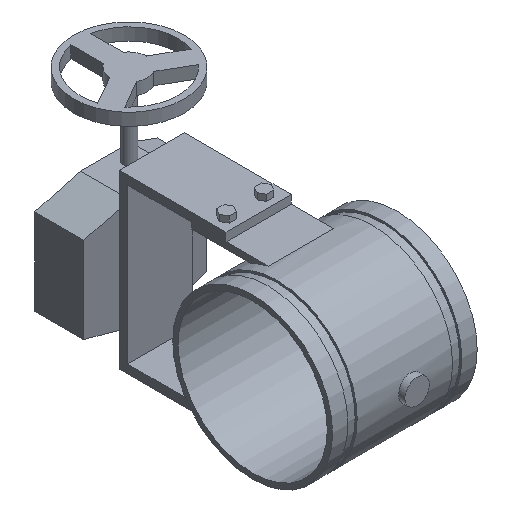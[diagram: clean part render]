
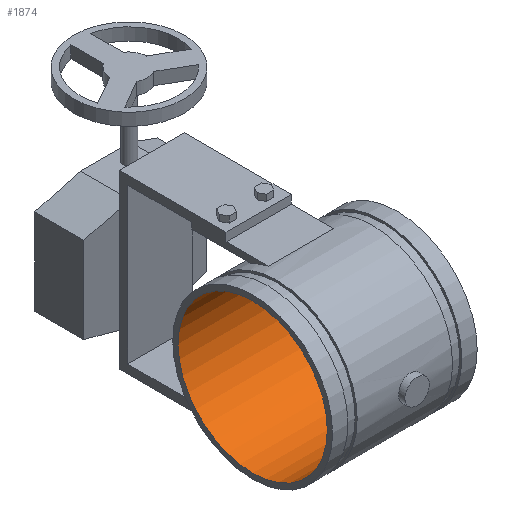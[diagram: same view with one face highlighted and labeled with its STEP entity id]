
A CAD part, isometric view. The second image highlights one B-rep face of the part: STEP entity #1874.
In plain terms, the highlighted cylindrical face has radius 77.025 mm (diameter 154.051 mm), a full revolution.
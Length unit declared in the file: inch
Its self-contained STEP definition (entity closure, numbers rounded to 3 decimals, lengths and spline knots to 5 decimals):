
#75=CYLINDRICAL_SURFACE('',#1999,3.0325);
#98=CIRCLE('',#2000,3.0325);
#99=CIRCLE('',#2001,3.0325);
#100=CIRCLE('',#2002,3.0325);
#101=CIRCLE('',#2003,3.0325);
#149=FACE_OUTER_BOUND('',#247,.T.);
#247=EDGE_LOOP('',(#1247,#1248,#1249,#1250,#1251,#1252));
#378=LINE('',#2815,#579);
#579=VECTOR('',#2214,3.0325);
#785=VERTEX_POINT('',#2811);
#786=VERTEX_POINT('',#2812);
#787=VERTEX_POINT('',#2814);
#788=VERTEX_POINT('',#2816);
#968=EDGE_CURVE('',#785,#786,#98,.T.);
#969=EDGE_CURVE('',#786,#787,#378,.T.);
#970=EDGE_CURVE('',#788,#787,#99,.T.);
#971=EDGE_CURVE('',#787,#788,#100,.T.);
#972=EDGE_CURVE('',#786,#785,#101,.T.);
#1247=ORIENTED_EDGE('',*,*,#968,.T.);
#1248=ORIENTED_EDGE('',*,*,#969,.T.);
#1249=ORIENTED_EDGE('',*,*,#970,.F.);
#1250=ORIENTED_EDGE('',*,*,#971,.F.);
#1251=ORIENTED_EDGE('',*,*,#969,.F.);
#1252=ORIENTED_EDGE('',*,*,#972,.T.);
#1874=ADVANCED_FACE('',(#149),#75,.F.);
#1999=AXIS2_PLACEMENT_3D('',#2810,#2210,#2211);
#2000=AXIS2_PLACEMENT_3D('',#2813,#2212,#2213);
#2001=AXIS2_PLACEMENT_3D('',#2817,#2215,#2216);
#2002=AXIS2_PLACEMENT_3D('',#2818,#2217,#2218);
#2003=AXIS2_PLACEMENT_3D('',#2819,#2219,#2220);
#2210=DIRECTION('center_axis',(1.,0.,0.));
#2211=DIRECTION('ref_axis',(0.,1.,0.));
#2212=DIRECTION('center_axis',(1.,0.,0.));
#2213=DIRECTION('ref_axis',(0.,0.,-1.));
#2214=DIRECTION('',(-1.,0.,0.));
#2215=DIRECTION('center_axis',(1.,0.,0.));
#2216=DIRECTION('ref_axis',(0.,0.,-1.));
#2217=DIRECTION('center_axis',(1.,0.,0.));
#2218=DIRECTION('ref_axis',(0.,0.,-1.));
#2219=DIRECTION('center_axis',(1.,0.,0.));
#2220=DIRECTION('ref_axis',(0.,0.,-1.));
#2810=CARTESIAN_POINT('Origin',(0.,0.,
0.));
#2811=CARTESIAN_POINT('',(2.94,3.0325,0.));
#2812=CARTESIAN_POINT('',(2.94,-3.0325,0.));
#2813=CARTESIAN_POINT('Origin',(2.94,0.,0.));
#2814=CARTESIAN_POINT('',(-2.94,-3.0325,0.));
#2815=CARTESIAN_POINT('',(0.,-3.0325,0.));
#2816=CARTESIAN_POINT('',(-2.94,3.0325,0.));
#2817=CARTESIAN_POINT('Origin',(-2.94,0.,0.));
#2818=CARTESIAN_POINT('Origin',(-2.94,0.,0.));
#2819=CARTESIAN_POINT('Origin',(2.94,0.,0.));
